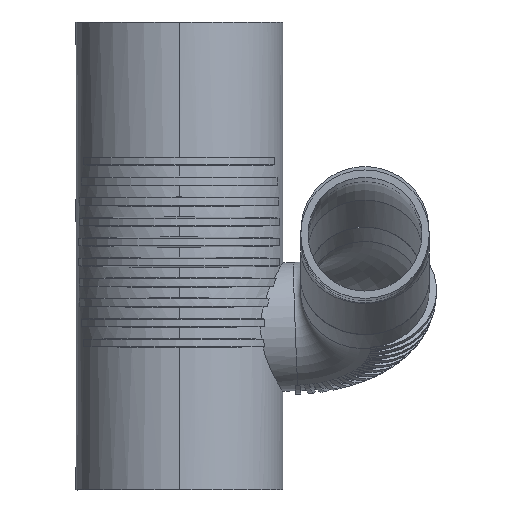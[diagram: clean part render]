
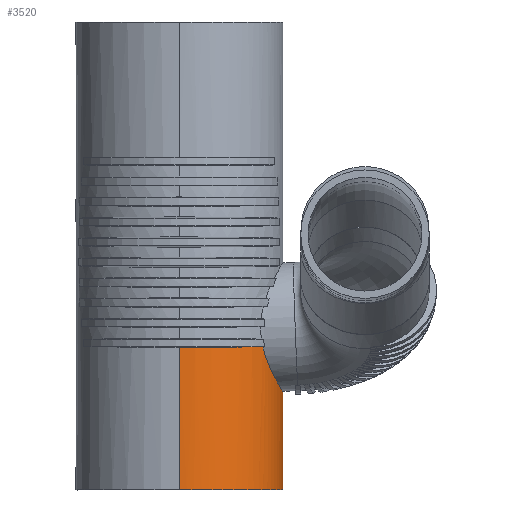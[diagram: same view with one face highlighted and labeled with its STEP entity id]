
A CAD part, front view. The second image highlights one B-rep face of the part: STEP entity #3520.
In plain terms, the highlighted cylindrical face has radius 45.188 mm (diameter 90.375 mm), a partial arc.
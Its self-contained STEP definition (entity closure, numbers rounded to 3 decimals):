
#193=FACE_OUTER_BOUND('',#392,.T.);
#392=EDGE_LOOP('',(#2271,#2272,#2273,#2274,#2275));
#615=CIRCLE('',#3749,45.188);
#795=LINE('',#5135,#959);
#829=LINE('',#5624,#993);
#959=VECTOR('',#4120,1.);
#993=VECTOR('',#4178,1.);
#1154=B_SPLINE_CURVE_WITH_KNOTS('',3,(#5609,#5610,#5611,#5612,#5613,#5614,
#5615,#5616,#5617,#5618,#5619,#5620,#5621,#5622),.UNSPECIFIED.,.F.,.F.,
(4,2,2,2,2,2,4),(-18.352,-17.873,-17.022,
-16.171,-15.32,-14.469,-14.286),
 .UNSPECIFIED.);
#1155=B_SPLINE_CURVE_WITH_KNOTS('',3,(#5625,#5626,#5627,#5628,#5629,#5630,
#5631,#5632,#5633,#5634,#5635,#5636,#5637,#5638,#5639,#5640,#5641,#5642,
#5643,#5644,#5645,#5646),.UNSPECIFIED.,.F.,.F.,(4,2,2,2,2,2,2,2,2,2,4),
(0.822,1.084,1.626,2.168,2.71,
3.252,3.793,4.335,4.88,5.424,
5.794),.UNSPECIFIED.);
#1305=VERTEX_POINT('',#5132);
#1306=VERTEX_POINT('',#5134);
#1360=VERTEX_POINT('',#5585);
#1370=VERTEX_POINT('',#5608);
#1371=VERTEX_POINT('',#5623);
#1664=EDGE_CURVE('',#1305,#1306,#795,.F.);
#1720=EDGE_CURVE('',#1305,#1360,#615,.T.);
#1731=EDGE_CURVE('',#1306,#1370,#1154,.F.);
#1732=EDGE_CURVE('',#1360,#1371,#829,.F.);
#1733=EDGE_CURVE('',#1370,#1371,#1155,.T.);
#2271=ORIENTED_EDGE('',*,*,#1731,.F.);
#2272=ORIENTED_EDGE('',*,*,#1664,.F.);
#2273=ORIENTED_EDGE('',*,*,#1720,.T.);
#2274=ORIENTED_EDGE('',*,*,#1732,.T.);
#2275=ORIENTED_EDGE('',*,*,#1733,.F.);
#3264=CYLINDRICAL_SURFACE('',#3753,45.188);
#3520=ADVANCED_FACE('',(#193),#3264,.T.);
#3749=AXIS2_PLACEMENT_3D('',#5587,#4161,#4162);
#3753=AXIS2_PLACEMENT_3D('',#5607,#4176,#4177);
#4120=DIRECTION('',(0.,0.,-1.));
#4161=DIRECTION('center_axis',(0.,0.,1.));
#4162=DIRECTION('ref_axis',(0.949,0.316,0.));
#4176=DIRECTION('center_axis',(0.,0.,-1.));
#4177=DIRECTION('ref_axis',(0.151,0.989,0.));
#4178=DIRECTION('',(0.,0.,-1.));
#5132=CARTESIAN_POINT('',(0.,-45.188,-120.5));
#5134=CARTESIAN_POINT('',(0.,-45.188,-58.241));
#5135=CARTESIAN_POINT('',(0.,-45.187,-101.31));
#5585=CARTESIAN_POINT('',(42.869,14.29,-120.5));
#5587=CARTESIAN_POINT('Origin',(0.,0.,
-120.5));
#5607=CARTESIAN_POINT('Origin',(0.,0.,-101.31));
#5608=CARTESIAN_POINT('',(36.475,-26.673,-58.091));
#5609=CARTESIAN_POINT('Ctrl Pts',(36.475,-26.673,-58.091));
#5610=CARTESIAN_POINT('Ctrl Pts',(35.476,-28.04,-58.102));
#5611=CARTESIAN_POINT('Ctrl Pts',(34.402,-29.346,-58.112));
#5612=CARTESIAN_POINT('Ctrl Pts',(31.257,-32.769,-58.139));
#5613=CARTESIAN_POINT('Ctrl Pts',(29.054,-34.725,-58.155));
#5614=CARTESIAN_POINT('Ctrl Pts',(24.482,-38.086,-58.183));
#5615=CARTESIAN_POINT('Ctrl Pts',(21.958,-39.606,-58.195));
#5616=CARTESIAN_POINT('Ctrl Pts',(16.579,-42.141,-58.216));
#5617=CARTESIAN_POINT('Ctrl Pts',(13.724,-43.158,-58.224));
#5618=CARTESIAN_POINT('Ctrl Pts',(7.873,-44.598,-58.236));
#5619=CARTESIAN_POINT('Ctrl Pts',(4.873,-45.022,-58.239));
#5620=CARTESIAN_POINT('Ctrl Pts',(1.266,-45.174,-58.241));
#5621=CARTESIAN_POINT('Ctrl Pts',(0.632,-45.188,-58.241));
#5622=CARTESIAN_POINT('Ctrl Pts',(0.,-45.188,
-58.241));
#5623=CARTESIAN_POINT('',(42.869,14.29,-73.701));
#5624=CARTESIAN_POINT('',(42.869,14.29,-101.31));
#5625=CARTESIAN_POINT('Ctrl Pts',(36.475,-26.673,-58.091));
#5626=CARTESIAN_POINT('Ctrl Pts',(36.669,-26.408,-58.947));
#5627=CARTESIAN_POINT('Ctrl Pts',(36.888,-26.102,-59.788));
#5628=CARTESIAN_POINT('Ctrl Pts',(37.621,-25.046,-62.304));
#5629=CARTESIAN_POINT('Ctrl Pts',(38.2,-24.167,-63.915));
#5630=CARTESIAN_POINT('Ctrl Pts',(39.405,-22.147,-66.884));
#5631=CARTESIAN_POINT('Ctrl Pts',(40.031,-21.007,-68.242));
#5632=CARTESIAN_POINT('Ctrl Pts',(41.212,-18.582,-70.645));
#5633=CARTESIAN_POINT('Ctrl Pts',(41.813,-17.209,-71.778));
#5634=CARTESIAN_POINT('Ctrl Pts',(42.928,-14.2,-73.789));
#5635=CARTESIAN_POINT('Ctrl Pts',(43.441,-12.565,-74.666));
#5636=CARTESIAN_POINT('Ctrl Pts',(44.291,-9.128,-76.086));
#5637=CARTESIAN_POINT('Ctrl Pts',(44.628,-7.322,-76.629));
#5638=CARTESIAN_POINT('Ctrl Pts',(45.076,-3.663,-77.347));
#5639=CARTESIAN_POINT('Ctrl Pts',(45.187,-1.81,-77.521));
#5640=CARTESIAN_POINT('Ctrl Pts',(45.188,1.811,-77.523));
#5641=CARTESIAN_POINT('Ctrl Pts',(45.076,3.674,-77.348));
#5642=CARTESIAN_POINT('Ctrl Pts',(44.624,7.351,-76.628));
#5643=CARTESIAN_POINT('Ctrl Pts',(44.284,9.166,-76.083));
#5644=CARTESIAN_POINT('Ctrl Pts',(43.563,12.069,-74.888));
#5645=CARTESIAN_POINT('Ctrl Pts',(43.23,13.206,-74.327));
#5646=CARTESIAN_POINT('Ctrl Pts',(42.869,14.29,-73.701));
